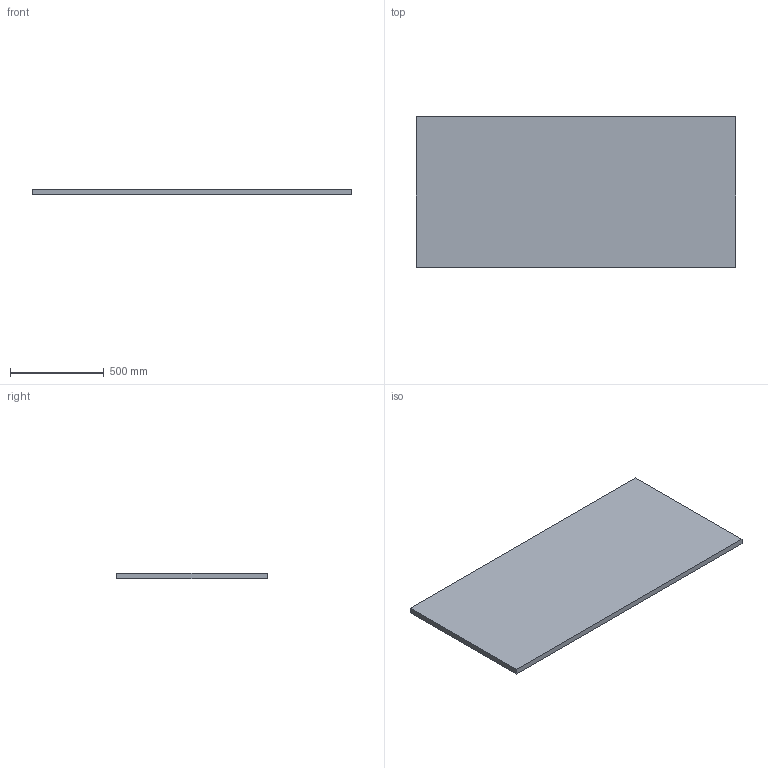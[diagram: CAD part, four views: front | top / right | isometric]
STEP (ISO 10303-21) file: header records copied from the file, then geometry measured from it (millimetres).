
FILE_DESCRIPTION(('Open CASCADE Model'),'2;1');
FILE_NAME('Open CASCADE Shape Model','2026-10-15T15:10:05',('Author'),( 'Open CASCADE'),'Open CASCADE STEP processor 8.0','Open CASCADE 8.0' ,'Unknown');
FILE_SCHEMA(('AUTOMOTIVE_DESIGN { 1 0 10303 214 1 1 1 1 }'));
Length unit declared in the file: millimetre
Products named in the file (1): PLATAFORMA_REJILLA_COMERCIAL_REF 122
Bounding box: 1700 x 800 x 30 mm (x, y, z)
Volume: 40800000 mm3; surface area: 2870000 mm2
Topology: 1 solids, 1 shells, 6 faces, 12 edges, 8 vertices
Faces by surface type: plane 6
Entity records: 322 total; most frequent: CARTESIAN_POINT 51, DIRECTION 50, LINE 36, VECTOR 36, ORIENTED_EDGE 24, PCURVE 24, DEFINITIONAL_REPRESENTATION 24, EDGE_CURVE 12
